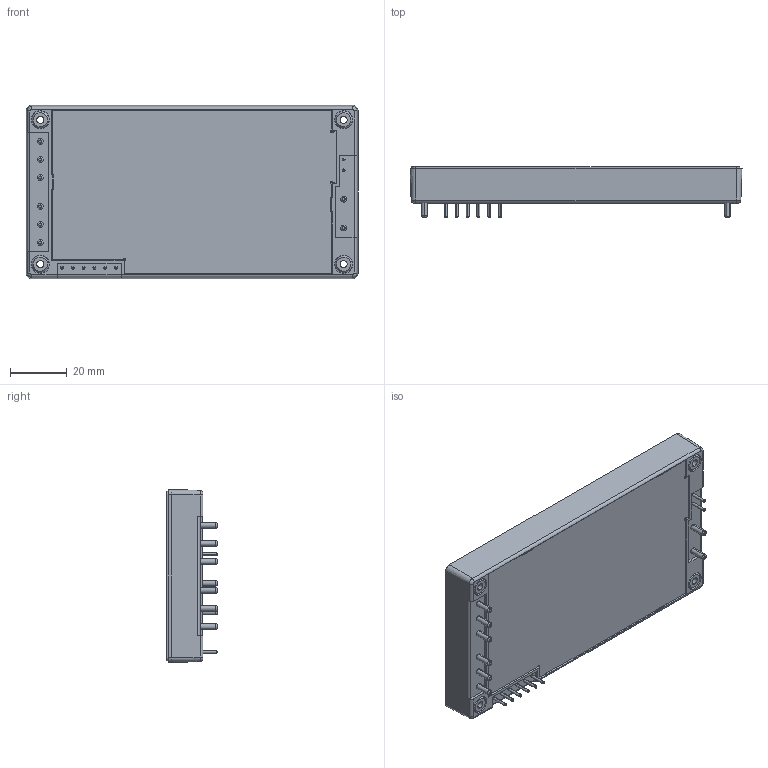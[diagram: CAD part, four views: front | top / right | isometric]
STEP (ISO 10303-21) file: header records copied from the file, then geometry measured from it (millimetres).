
FILE_DESCRIPTION (( 'STEP AP214' ), '1' );
FILE_NAME ('paf500f24_outline.STEP', '2016-08-04T03:10:19', ( 'tluser' ), ( 'Microsoft' ), 'SwSTEP 2.0', 'SolidWorks 2013', '' );
FILE_SCHEMA (( 'AUTOMOTIVE_DESIGN' ));
Length unit declared in the file: millimetre
Products named in the file (1): paf500f24_outline
Bounding box: 116.8 x 17.7 x 61 mm (x, y, z)
Volume: 85842.3 mm3; surface area: 20805.6 mm2
Topology: 1 solids, 1 shells, 297 faces, 738 edges, 478 vertices
Faces by surface type: plane 141, cylinder 100, torus 36, cone 20
Entity records: 12203 total; most frequent: DIRECTION 1644, CARTESIAN_POINT 1514, ORIENTED_EDGE 1476, EDGE_CURVE 738, AXIS2_PLACEMENT_3D 608, VERTEX_POINT 478, VECTOR 428, LINE 428
